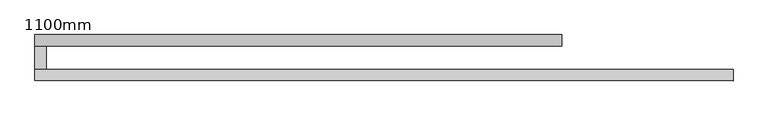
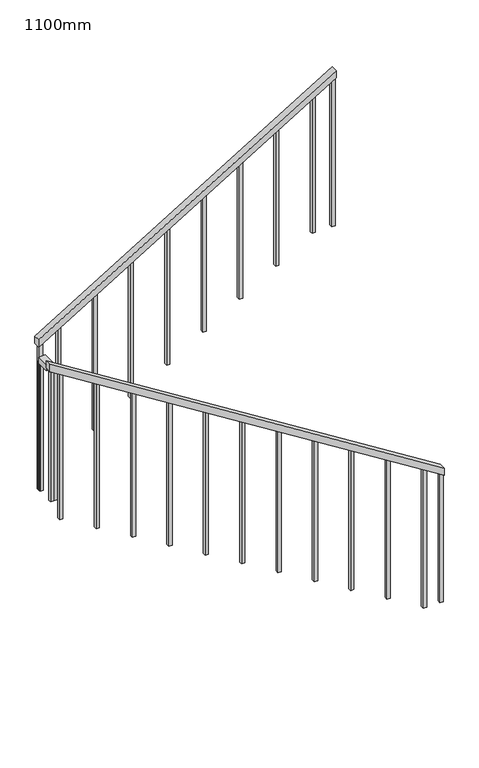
"""IFC4 building model written with IfcOpenShell, lengths in millimetres: railing geometry, 1100mm."""

from ifc_helpers import new_model, si_unit, frame, origin, place, context, project, spatial, polyline, outline, extrude, source, transform, mapped, element, save


def railing_1100mm_bf5e9941(model_context):
    return source(origin(), model_context, "Body", "SweptSolid", [
        extrude(outline(polyline([(2205.0016944, 3688.1396938), (2264.0538011, 3688.1396938), (4171.4189641, 652.7672395), (4112.3668574, 652.7672395), (2205.0016944, 3688.1396938)])), frame((0.0, -34304.7846466, 0.0), z_axis=(0.0, 1.0, 0.0), x_axis=(0.0, 0.0, 1.0)), (0.0, 0.0, 1.0), 50.0),
        extrude(outline(polyline([(4279.6428571, 652.7672395), (4221.148788, 652.7672395), (5611.5059309, 2942.7672395), (5670.0, 2942.7672395), (4279.6428571, 652.7672395)])), frame((0.0, -34154.7846466, 0.0), z_axis=(0.0, 1.0, 0.0), x_axis=(0.0, 0.0, 1.0)), (0.0, 0.0, 1.0), 50.0),
        extrude(outline(polyline([(702.7672395, -34254.7846466), (652.7672395, -34254.7846466), (652.7672395, -34154.7846466), (702.7672395, -34154.7846466), (702.7672395, -34254.7846466)])), frame((0.0, 0.0, 4090.0), z_axis=(0.0, 0.0, 1.0), x_axis=(1.0, 0.0, 0.0)), (0.0, 0.0, 1.0), 50.0),
        extrude(outline(polyline([(4400.0, 2765.2672395), (4400.0, 2790.2672395), (5518.9166452, 2790.2672395), (5503.7380737, 2765.2672395), (4400.0, 2765.2672395)])), frame((0.0, -34142.2846466, 0.0), z_axis=(0.0, 1.0, 0.0), x_axis=(0.0, 0.0, 1.0)), (0.0, 0.0, 1.0), 25.0),
        extrude(outline(polyline([(4230.0, 2485.2672395), (4230.0, 2510.2672395), (5348.9166452, 2510.2672395), (5333.7380737, 2485.2672395), (4230.0, 2485.2672395)])), frame((0.0, -34142.2846466, 0.0), z_axis=(0.0, 1.0, 0.0), x_axis=(0.0, 0.0, 1.0)), (0.0, 0.0, 1.0), 25.0),
        extrude(outline(polyline([(4060.0, 2205.2672395), (4060.0, 2230.2672395), (5178.9166452, 2230.2672395), (5163.7380737, 2205.2672395), (4060.0, 2205.2672395)])), frame((0.0, -34142.2846466, 0.0), z_axis=(0.0, 1.0, 0.0), x_axis=(0.0, 0.0, 1.0)), (0.0, 0.0, 1.0), 25.0),
        extrude(outline(polyline([(3890.0, 1925.2672395), (3890.0, 1950.2672395), (5008.9166452, 1950.2672395), (4993.7380737, 1925.2672395), (3890.0, 1925.2672395)])), frame((0.0, -34142.2846466, 0.0), z_axis=(0.0, 1.0, 0.0), x_axis=(0.0, 0.0, 1.0)), (0.0, 0.0, 1.0), 25.0),
        extrude(outline(polyline([(3720.0, 1645.2672395), (3720.0, 1670.2672395), (4838.9166452, 1670.2672395), (4823.7380737, 1645.2672395), (3720.0, 1645.2672395)])), frame((0.0, -34142.2846466, 0.0), z_axis=(0.0, 1.0, 0.0), x_axis=(0.0, 0.0, 1.0)), (0.0, 0.0, 1.0), 25.0),
        extrude(outline(polyline([(3550.0, 1365.2672395), (3550.0, 1390.2672395), (4668.9166452, 1390.2672395), (4653.7380737, 1365.2672395), (3550.0, 1365.2672395)])), frame((0.0, -34142.2846466, 0.0), z_axis=(0.0, 1.0, 0.0), x_axis=(0.0, 0.0, 1.0)), (0.0, 0.0, 1.0), 25.0),
        extrude(outline(polyline([(3380.0, 1085.2672395), (3380.0, 1110.2672395), (4498.9166452, 1110.2672395), (4483.7380737, 1085.2672395), (3380.0, 1085.2672395)])), frame((0.0, -34142.2846466, 0.0), z_axis=(0.0, 1.0, 0.0), x_axis=(0.0, 0.0, 1.0)), (0.0, 0.0, 1.0), 25.0),
        extrude(outline(polyline([(3210.0, 805.2672395), (3210.0, 830.2672395), (4328.9166452, 830.2672395), (4313.7380737, 805.2672395), (3210.0, 805.2672395)])), frame((0.0, -34142.2846466, 0.0), z_axis=(0.0, 1.0, 0.0), x_axis=(0.0, 0.0, 1.0)), (0.0, 0.0, 1.0), 25.0),
        extrude(outline(polyline([(665.2672395, -34152.2846466), (665.2672395, -34127.2846466), (690.2672395, -34127.2846466), (690.2672395, -34152.2846466), (665.2672395, -34152.2846466)])), frame((0.0, 0.0, 3040.0), z_axis=(0.0, 0.0, 1.0), x_axis=(1.0, 0.0, 0.0)), (0.0, 0.0, 1.0), 1050.0),
        extrude(outline(polyline([(4044.582042, 760.6396938), (4060.2915241, 735.6396938), (2870.0, 735.6396938), (2870.0, 760.6396938), (4044.582042, 760.6396938)])), frame((0.0, -34292.2846466, 0.0), z_axis=(0.0, 1.0, 0.0), x_axis=(0.0, 0.0, 1.0)), (0.0, 0.0, 1.0), 25.0),
        extrude(outline(polyline([(3868.6358431, 1040.6396938), (3884.3453251, 1015.6396938), (2700.0, 1015.6396938), (2700.0, 1040.6396938), (3868.6358431, 1040.6396938)])), frame((0.0, -34292.2846466, 0.0), z_axis=(0.0, 1.0, 0.0), x_axis=(0.0, 0.0, 1.0)), (0.0, 0.0, 1.0), 25.0),
        extrude(outline(polyline([(3692.6896442, 1320.6396938), (3708.3991262, 1295.6396938), (2530.0, 1295.6396938), (2530.0, 1320.6396938), (3692.6896442, 1320.6396938)])), frame((0.0, -34292.2846466, 0.0), z_axis=(0.0, 1.0, 0.0), x_axis=(0.0, 0.0, 1.0)), (0.0, 0.0, 1.0), 25.0),
        extrude(outline(polyline([(3516.7434453, 1600.6396938), (3532.4529273, 1575.6396938), (2360.0, 1575.6396938), (2360.0, 1600.6396938), (3516.7434453, 1600.6396938)])), frame((0.0, -34292.2846466, 0.0), z_axis=(0.0, 1.0, 0.0), x_axis=(0.0, 0.0, 1.0)), (0.0, 0.0, 1.0), 25.0),
        extrude(outline(polyline([(3340.7972463, 1880.6396938), (3356.5067284, 1855.6396938), (2190.0, 1855.6396938), (2190.0, 1880.6396938), (3340.7972463, 1880.6396938)])), frame((0.0, -34292.2846466, 0.0), z_axis=(0.0, 1.0, 0.0), x_axis=(0.0, 0.0, 1.0)), (0.0, 0.0, 1.0), 25.0),
        extrude(outline(polyline([(3164.8510474, 2160.6396938), (3180.5605295, 2135.6396938), (2020.0, 2135.6396938), (2020.0, 2160.6396938), (3164.8510474, 2160.6396938)])), frame((0.0, -34292.2846466, 0.0), z_axis=(0.0, 1.0, 0.0), x_axis=(0.0, 0.0, 1.0)), (0.0, 0.0, 1.0), 25.0),
        extrude(outline(polyline([(2988.9048485, 2440.6396938), (3004.6143305, 2415.6396938), (1850.0, 2415.6396938), (1850.0, 2440.6396938), (2988.9048485, 2440.6396938)])), frame((0.0, -34292.2846466, 0.0), z_axis=(0.0, 1.0, 0.0), x_axis=(0.0, 0.0, 1.0)), (0.0, 0.0, 1.0), 25.0),
        extrude(outline(polyline([(2812.9586496, 2720.6396938), (2828.6681316, 2695.6396938), (1680.0, 2695.6396938), (1680.0, 2720.6396938), (2812.9586496, 2720.6396938)])), frame((0.0, -34292.2846466, 0.0), z_axis=(0.0, 1.0, 0.0), x_axis=(0.0, 0.0, 1.0)), (0.0, 0.0, 1.0), 25.0),
        extrude(outline(polyline([(2637.0124507, 3000.6396938), (2652.7219327, 2975.6396938), (1510.0, 2975.6396938), (1510.0, 3000.6396938), (2637.0124507, 3000.6396938)])), frame((0.0, -34292.2846466, 0.0), z_axis=(0.0, 1.0, 0.0), x_axis=(0.0, 0.0, 1.0)), (0.0, 0.0, 1.0), 25.0),
        extrude(outline(polyline([(2461.0662517, 3280.6396938), (2476.7757338, 3255.6396938), (1340.0, 3255.6396938), (1340.0, 3280.6396938), (2461.0662517, 3280.6396938)])), frame((0.0, -34292.2846466, 0.0), z_axis=(0.0, 1.0, 0.0), x_axis=(0.0, 0.0, 1.0)), (0.0, 0.0, 1.0), 25.0),
        extrude(outline(polyline([(2285.1200528, 3560.6396938), (2300.8295349, 3535.6396938), (1170.0, 3535.6396938), (1170.0, 3560.6396938), (2285.1200528, 3560.6396938)])), frame((0.0, -34292.2846466, 0.0), z_axis=(0.0, 1.0, 0.0), x_axis=(0.0, 0.0, 1.0)), (0.0, 0.0, 1.0), 25.0),
        extrude(outline(polyline([(3040.0, 665.2672395), (3040.0, 690.2672395), (4243.9166452, 690.2672395), (4228.7380737, 665.2672395), (3040.0, 665.2672395)])), frame((0.0, -34142.2846466, 0.0), z_axis=(0.0, 1.0, 0.0), x_axis=(0.0, 0.0, 1.0)), (0.0, 0.0, 1.0), 25.0),
        extrude(outline(polyline([(690.2672395, -34292.2846466), (665.2672395, -34292.2846466), (665.2672395, -34267.2846466), (690.2672395, -34267.2846466), (690.2672395, -34292.2846466)])), frame((0.0, 0.0, 3040.0), z_axis=(0.0, 0.0, 1.0), x_axis=(1.0, 0.0, 0.0)), (0.0, 0.0, 1.0), 1050.0),
        extrude(outline(polyline([(4073.0931523, 715.2672395), (4088.8026343, 690.2672395), (3040.0, 690.2672395), (3040.0, 715.2672395), (4073.0931523, 715.2672395)])), frame((0.0, -34292.2846466, 0.0), z_axis=(0.0, 1.0, 0.0), x_axis=(0.0, 0.0, 1.0)), (0.0, 0.0, 1.0), 25.0),
        extrude(outline(polyline([(4400.0, 2917.7672395), (4400.0, 2942.7672395), (5611.5059309, 2942.7672395), (5596.3273595, 2917.7672395), (4400.0, 2917.7672395)])), frame((0.0, -34142.2846466, 0.0), z_axis=(0.0, 1.0, 0.0), x_axis=(0.0, 0.0, 1.0)), (0.0, 0.0, 1.0), 25.0),
        extrude(outline(polyline([(2205.0016944, 3688.1396938), (2220.7111764, 3663.1396938), (1170.0, 3663.1396938), (1170.0, 3688.1396938), (2205.0016944, 3688.1396938)])), frame((0.0, -34292.2846466, 0.0), z_axis=(0.0, 1.0, 0.0), x_axis=(0.0, 0.0, 1.0)), (0.0, 0.0, 1.0), 25.0),
    ])


if __name__ == "__main__":
    model = new_model("IFC4")
    model_context = context("Model", 3, world=origin())
    ifc_project = project(units=[si_unit("LENGTHUNIT", "METRE", prefix="MILLI")], contexts=[model_context])
    site = spatial("IfcSite", under=ifc_project)
    building = spatial("IfcBuilding", under=site)
    placement = place(None, origin())
    railing_1100mm_shape = railing_1100mm_bf5e9941(model_context)
    element("IfcRailing", 1, ObjectType="1100mm", at=placement, inside=building, context=model_context, shape_type="MappedRepresentation", body=[
        mapped(railing_1100mm_shape, transform((0.0, 0.0, 0.0), x_axis=(1.0, 0.0, 0.0), y_axis=(0.0, 1.0, 0.0), z_axis=(0.0, 0.0, 1.0))),
    ])
    save(model, "model.ifc")
